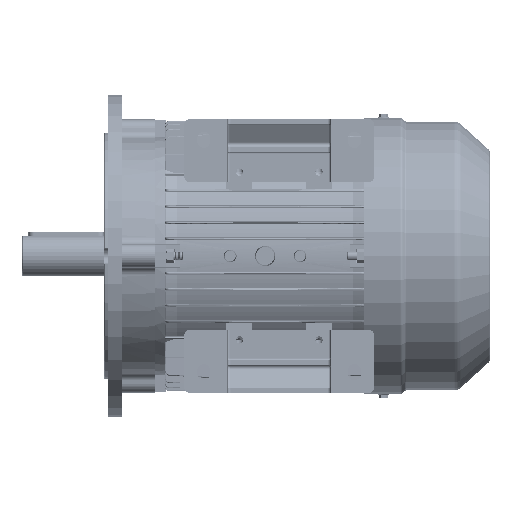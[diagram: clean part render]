
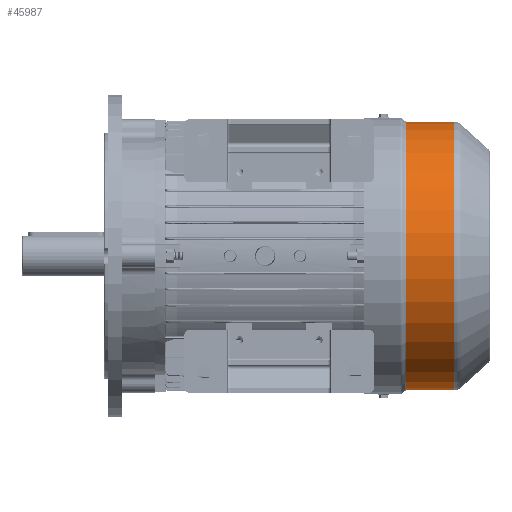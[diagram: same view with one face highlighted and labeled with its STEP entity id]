
A CAD part, front view. The second image highlights one B-rep face of the part: STEP entity #45987.
In plain terms, the highlighted cylindrical face has radius 125 mm (diameter 250 mm), a partial arc.
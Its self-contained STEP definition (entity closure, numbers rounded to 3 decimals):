
#824 = CARTESIAN_POINT ( 'NONE',  ( -39.028, 0., 0. ) ) ;
#2081 = ORIENTED_EDGE ( 'NONE', *, *, #9545, .T. ) ;
#5385 = DIRECTION ( 'NONE',  ( 0., 0., 1. ) ) ;
#9545 = EDGE_CURVE ( 'NONE', #126199, #103048, #20682, .T. ) ;
#14003 = AXIS2_PLACEMENT_3D ( 'NONE', #56737, #55678, #5385 ) ;
#17617 = VERTEX_POINT ( 'NONE', #39554 ) ;
#20682 = CIRCLE ( 'NONE', #40895, 125. ) ;
#21641 = EDGE_CURVE ( 'NONE', #63654, #17617, #116453, .T. ) ;
#22968 = AXIS2_PLACEMENT_3D ( 'NONE', #59998, #109066, #146593 ) ;
#23774 = VECTOR ( 'NONE', #60705, 1000. ) ;
#24291 = EDGE_LOOP ( 'NONE', ( #143472, #2081, #113582, #155507 ) ) ;
#28446 = LINE ( 'NONE', #70857, #40302 ) ;
#38692 = EDGE_CURVE ( 'NONE', #126199, #17617, #28446, .T. ) ;
#39554 = CARTESIAN_POINT ( 'NONE',  ( -83.139, 0., -125. ) ) ;
#40302 = VECTOR ( 'NONE', #149590, 1000. ) ;
#40895 = AXIS2_PLACEMENT_3D ( 'NONE', #824, #101311, #89681 ) ;
#45987 = ADVANCED_FACE ( 'NONE', ( #52698 ), #161226, .T. ) ;
#49080 = CARTESIAN_POINT ( 'NONE',  ( -83.139, 0., 125. ) ) ;
#52698 = FACE_OUTER_BOUND ( 'NONE', #24291, .T. ) ;
#55678 = DIRECTION ( 'NONE',  ( -1., 0., 0. ) ) ;
#56737 = CARTESIAN_POINT ( 'NONE',  ( -114., 0., 0. ) ) ;
#59998 = CARTESIAN_POINT ( 'NONE',  ( -83.139, 0., 0. ) ) ;
#60705 = DIRECTION ( 'NONE',  ( -1., 0., 0. ) ) ;
#61811 = CARTESIAN_POINT ( 'NONE',  ( -114., 0., 125. ) ) ;
#63654 = VERTEX_POINT ( 'NONE', #49080 ) ;
#63720 = EDGE_CURVE ( 'NONE', #103048, #63654, #144256, .T. ) ;
#70857 = CARTESIAN_POINT ( 'NONE',  ( -114., 0., -125. ) ) ;
#89681 = DIRECTION ( 'NONE',  ( 0., 0., 1. ) ) ;
#101311 = DIRECTION ( 'NONE',  ( -1., 0., 0. ) ) ;
#103048 = VERTEX_POINT ( 'NONE', #125250 ) ;
#109066 = DIRECTION ( 'NONE',  ( 1., 0., 0. ) ) ;
#113582 = ORIENTED_EDGE ( 'NONE', *, *, #63720, .T. ) ;
#116453 = CIRCLE ( 'NONE', #22968, 125. ) ;
#125250 = CARTESIAN_POINT ( 'NONE',  ( -39.028, 0., 125. ) ) ;
#126199 = VERTEX_POINT ( 'NONE', #162863 ) ;
#143472 = ORIENTED_EDGE ( 'NONE', *, *, #38692, .F. ) ;
#144256 = LINE ( 'NONE', #61811, #23774 ) ;
#146593 = DIRECTION ( 'NONE',  ( 0., 0., -1. ) ) ;
#149590 = DIRECTION ( 'NONE',  ( -1., 0., 0. ) ) ;
#155507 = ORIENTED_EDGE ( 'NONE', *, *, #21641, .T. ) ;
#161226 = CYLINDRICAL_SURFACE ( 'NONE', #14003, 125. ) ;
#162863 = CARTESIAN_POINT ( 'NONE',  ( -39.028, 0., -125. ) ) ;
